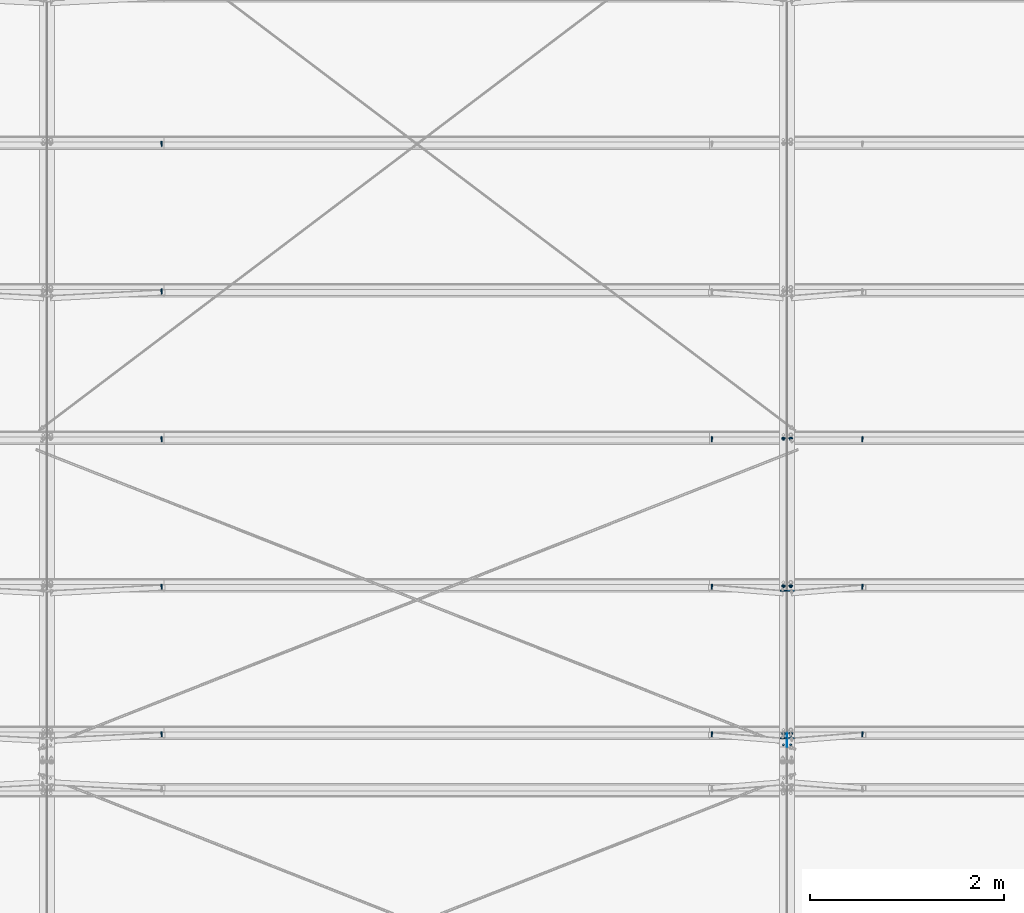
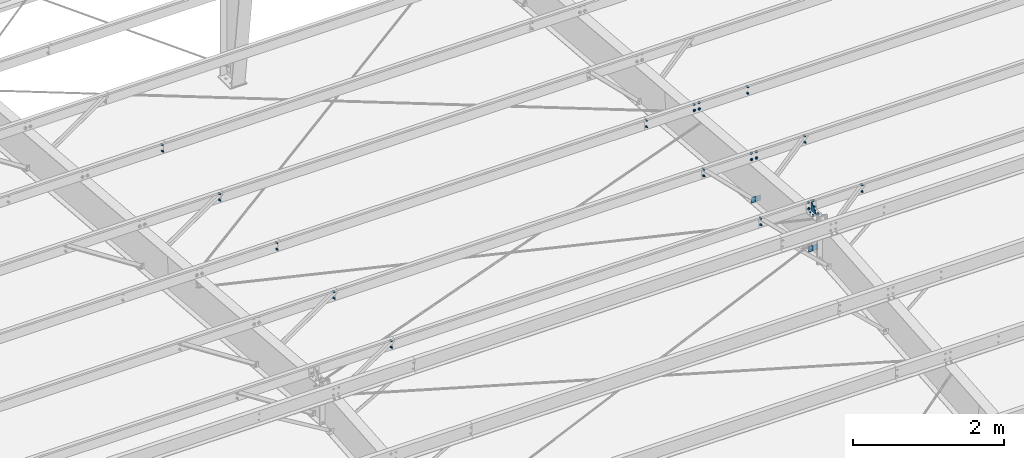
# One storey, part 82 of 185: 18 mechanical fasteners, 5 discrete accessories, 13 elements without a shape of their own.
"""IFC2X3 building model written with IfcOpenShell, lengths in millimetres."""

from ifc_helpers import new_model, si_unit, frame, origin_with_axes, origin_2d_with_axis, place, context, subcontext, project, spatial, polyline, rectangle, circle, outline, extrude, source, transform, mapped, material, type_object, element, aggregate, save


model = new_model("IFC2X3")

# Units and contexts
model_context = context("Model", 3, precision=1e-05, world=origin_with_axes())
body_context = subcontext(model_context, "Body", "Model", "MODEL_VIEW")
ifc_project = project(units=[si_unit("LENGTHUNIT", "METRE", prefix="MILLI"), si_unit("AREAUNIT", "SQUARE_METRE"), si_unit("VOLUMEUNIT", "CUBIC_METRE"), si_unit("MASSUNIT", "GRAM", prefix="KILO"), si_unit("TIMEUNIT", "SECOND"), si_unit("PLANEANGLEUNIT", "RADIAN"), si_unit("SOLIDANGLEUNIT", "STERADIAN"), si_unit("THERMODYNAMICTEMPERATUREUNIT", "DEGREE_CELSIUS"), si_unit("LUMINOUSINTENSITYUNIT", "LUMEN")], contexts=[model_context])

# Site, building, storey
site_placement = place(None, origin_with_axes())
site = spatial("IfcSite", under=ifc_project, at=site_placement, Name="Undefined", CompositionType="ELEMENT")
building_placement = place(site_placement, origin_with_axes())
building = spatial("IfcBuilding", under=site, at=building_placement, Name="Undefined", CompositionType="ELEMENT")
storey_placement = place(building_placement, origin_with_axes())
storey = spatial("IfcBuildingStorey", under=building, at=storey_placement, Name="Undefined", CompositionType="ELEMENT", Elevation=0.0)

# Assembly, mechanical fastener
assembly_1_placement = place(storey_placement, origin_with_axes())
assembly_1 = element("IfcElementAssembly", 1, at=assembly_1_placement, inside=storey, Name="Steel Assembly", AssemblyPlace="NOTDEFINED", PredefinedType="RIGID_FRAME")
ifc_material_1 = material(Name="Undefined")
discrete_accessory_type_1 = type_object("IfcDiscreteAccessoryType", Name="Bolt assembly")
shared_shape_1 = source(origin_with_axes(), body_context, "Body", "SweptSolid", [
    extrude(circle(Radius=7.14374971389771, at=origin_2d_with_axis()), frame((0.0, -1.59000001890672, 0.0), z_axis=(0.0, 1.0, 0.0), x_axis=(1.0, 0.0, 0.0)), (0.0, 0.0, 1.0), 3.3),
    extrude(circle(Radius=13.4937496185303, at=origin_2d_with_axis()), frame((0.0, -5.5587500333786, 0.0), z_axis=(0.0, 1.0, 0.0), x_axis=(1.0, 0.0, 0.0)), (0.0, 0.0, 1.0), 4.0),
    extrude(circle(Radius=22.2250003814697, at=origin_2d_with_axis()), frame((0.0, 1.5900000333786, 0.0), z_axis=(0.0, 1.0, 0.0), x_axis=(1.0, 0.0, 0.0)), (0.0, 0.0, 1.0), 7.9),
    extrude(outline(polyline([(12.8316099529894, 0.0), (6.4158049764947, 11.1125001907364), (-6.4158049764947, 11.1125001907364), (-12.8316099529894, 0.0), (-6.4158049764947, -11.1125001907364), (6.4158049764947, -11.1125001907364), (12.8316099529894, 0.0)])), frame((0.0, 9.5275000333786, 0.0), z_axis=(0.0, 1.0, 0.0), x_axis=(1.0, 0.0, 0.0)), (0.0, 0.0, 1.0), 12.3),
])
mechanical_fastener_1_placement = place(assembly_1_placement, frame((14820.9, 19338.9994834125, 7100.44062815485), z_axis=(-1.0, 0.0, 0.0), x_axis=(0.0, -0.0830454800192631, -0.996545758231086)))
mechanical_fastener_1 = element("IfcMechanicalFastener", 2, at=mechanical_fastener_1_placement, type_object=discrete_accessory_type_1, material=ifc_material_1, Name="Bolt assembly", NominalDiameter=12.6999998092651, NominalLength=38.0999984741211, context=body_context, shape_type="MappedRepresentation", body=[
    mapped(shared_shape_1, transform((0.0, 0.0, 0.0))),
    mapped(shared_shape_1, transform((101.599998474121, 0.0, 0.0))),
])
aggregate(assembly_1, [mechanical_fastener_1])

assembly_2_placement = place(storey_placement, origin_with_axes())
assembly_2 = element("IfcElementAssembly", 3, at=assembly_2_placement, inside=storey, Name="Steel Assembly", AssemblyPlace="NOTDEFINED", PredefinedType="RIGID_FRAME")
mechanical_fastener_2_placement = place(assembly_2_placement, frame((14897.1, 19338.9994834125, 7100.44062815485), z_axis=(-1.0, 0.0, 0.0), x_axis=(0.0, -0.0830454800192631, -0.996545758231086)))
mechanical_fastener_2 = element("IfcMechanicalFastener", 4, at=mechanical_fastener_2_placement, type_object=discrete_accessory_type_1, material=ifc_material_1, Name="Bolt assembly", NominalDiameter=12.6999998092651, NominalLength=38.0999984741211, context=body_context, shape_type="MappedRepresentation", body=[
    mapped(shared_shape_1, transform((0.0, 0.0, 0.0))),
    mapped(shared_shape_1, transform((101.599998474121, 0.0, 0.0))),
])

assembly_3_placement = place(storey_placement, origin_with_axes())
assembly_3 = element("IfcElementAssembly", 5, at=assembly_3_placement, inside=storey, Name="Steel Assembly", AssemblyPlace="NOTDEFINED", PredefinedType="RIGID_FRAME")
mechanical_fastener_3_placement = place(assembly_3_placement, frame((14820.9, 17820.2637478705, 7227.00193971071), z_axis=(-1.0, 0.0, 0.0), x_axis=(0.0, -0.0830454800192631, -0.996545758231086)))
mechanical_fastener_3 = element("IfcMechanicalFastener", 6, at=mechanical_fastener_3_placement, type_object=discrete_accessory_type_1, material=ifc_material_1, Name="Bolt assembly", NominalDiameter=12.6999998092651, NominalLength=38.0999984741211, context=body_context, shape_type="MappedRepresentation", body=[
    mapped(shared_shape_1, transform((0.0, 0.0, 0.0))),
    mapped(shared_shape_1, transform((101.599998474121, 0.0, 0.0))),
])
aggregate(assembly_3, [mechanical_fastener_3])

assembly_4_placement = place(storey_placement, origin_with_axes())
assembly_4 = element("IfcElementAssembly", 7, at=assembly_4_placement, inside=storey, Name="Steel Assembly", AssemblyPlace="NOTDEFINED", PredefinedType="RIGID_FRAME")
mechanical_fastener_4_placement = place(assembly_4_placement, frame((14897.1, 17820.2637478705, 7227.00193971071), z_axis=(-1.0, 0.0, 0.0), x_axis=(0.0, -0.0830454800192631, -0.996545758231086)))
mechanical_fastener_4 = element("IfcMechanicalFastener", 8, at=mechanical_fastener_4_placement, type_object=discrete_accessory_type_1, material=ifc_material_1, Name="Bolt assembly", NominalDiameter=12.6999998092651, NominalLength=38.0999984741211, context=body_context, shape_type="MappedRepresentation", body=[
    mapped(shared_shape_1, transform((0.0, 0.0, 0.0))),
    mapped(shared_shape_1, transform((101.599998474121, 0.0, 0.0))),
])

assembly_5_placement = place(storey_placement, origin_with_axes())
assembly_5 = element("IfcElementAssembly", 9, at=assembly_5_placement, inside=storey, Name="Steel Assembly", AssemblyPlace="NOTDEFINED", PredefinedType="RIGID_FRAME")
mechanical_fastener_5_placement = place(assembly_5_placement, frame((14820.9, 16301.5280123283, 7353.56325126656), z_axis=(-1.0, 0.0, 0.0), x_axis=(0.0, -0.0830454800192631, -0.996545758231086)))
mechanical_fastener_5 = element("IfcMechanicalFastener", 10, at=mechanical_fastener_5_placement, type_object=discrete_accessory_type_1, material=ifc_material_1, Name="Bolt assembly", NominalDiameter=12.6999998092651, NominalLength=38.0999984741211, context=body_context, shape_type="MappedRepresentation", body=[
    mapped(shared_shape_1, transform((0.0, 0.0, 0.0))),
    mapped(shared_shape_1, transform((101.599998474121, 0.0, 0.0))),
])
aggregate(assembly_5, [mechanical_fastener_5])

assembly_6_placement = place(storey_placement, origin_with_axes())
assembly_6 = element("IfcElementAssembly", 11, at=assembly_6_placement, inside=storey, Name="Steel Assembly", AssemblyPlace="NOTDEFINED", PredefinedType="RIGID_FRAME")
mechanical_fastener_6_placement = place(assembly_6_placement, frame((14897.1, 16301.5280123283, 7353.56325126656), z_axis=(-1.0, 0.0, 0.0), x_axis=(0.0, -0.0830454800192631, -0.996545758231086)))
mechanical_fastener_6 = element("IfcMechanicalFastener", 12, at=mechanical_fastener_6_placement, type_object=discrete_accessory_type_1, material=ifc_material_1, Name="Bolt assembly", NominalDiameter=12.6999998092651, NominalLength=38.0999984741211, context=body_context, shape_type="MappedRepresentation", body=[
    mapped(shared_shape_1, transform((0.0, 0.0, 0.0))),
    mapped(shared_shape_1, transform((101.599998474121, 0.0, 0.0))),
])

# Assembly, discrete accessory
assembly_7_placement = place(storey_placement, origin_with_axes())
assembly_7 = element("IfcElementAssembly", 13, at=assembly_7_placement, inside=storey, Name="Steel Assembly", AssemblyPlace="NOTDEFINED", PredefinedType="RIGID_FRAME")
ifc_material_2 = material(Name="STEEL/55")
discrete_accessory_type_2 = type_object("IfcDiscreteAccessoryType", Name="PLATE")
discrete_accessory_1_placement = place(assembly_7_placement, frame((14859.0, 16150.1817775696, 7219.6191968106), z_axis=(1.0, 0.0, 0.0), x_axis=(0.0, 0.996545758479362, -0.0830454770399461)))
discrete_accessory_1 = element("IfcDiscreteAccessory", 14, at=discrete_accessory_1_placement, type_object=discrete_accessory_type_2, material=ifc_material_2, Name="PLATE", ObjectType="FL1/4\"X5 1/4\"", context=body_context, shape_type="SweptSolid", body=[
    extrude(outline(polyline([(0.0, 0.0), (133.350006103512, 3.70164343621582e-10), (133.350006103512, 190.500000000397), (0.0, 0.0)])), frame((0.0, 0.0, -3.175), z_axis=(0.0, 0.0, 1.0), x_axis=(1.0, 0.0, 0.0)), (0.0, 0.0, 1.0), 6.4),
])

# Assembly, discrete accessories
assembly_8_placement = place(storey_placement, origin_with_axes())
assembly_8 = element("IfcElementAssembly", 15, at=assembly_8_placement, inside=storey, Name="Steel Assembly", AssemblyPlace="NOTDEFINED", PredefinedType="RIGID_FRAME")
discrete_accessory_type_3 = type_object("IfcDiscreteAccessoryType", Name="FLANGE BRACE FLIP")
discrete_accessory_2_placement = place(assembly_8_placement, frame((14857.29185, 16242.8487656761, 6628.84524779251), z_axis=(0.0, 0.0830454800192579, 0.996545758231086), x_axis=(-1.0, 0.0, 0.0)))
discrete_accessory_2 = element("IfcDiscreteAccessory", 16, at=discrete_accessory_2_placement, type_object=discrete_accessory_type_3, material=ifc_material_2, Name="FLANGE BRACE FLIP", ObjectType="PL1/8\"X2 3/4\"", context=body_context, shape_type="SweptSolid", body=[
    extrude(rectangle(XDim=3.416, YDim=85.725, at=origin_2d_with_axis()), frame((69.8499999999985, 0.0, 0.0), z_axis=(-1.0, 0.0, 0.0), x_axis=(0.0, -1.0, 0.0)), (0.0, 0.0, 1.0), 69.9),
])
discrete_accessory_3_placement = place(assembly_8_placement, frame((14860.70815, 16242.8487656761, 6628.84524779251), z_axis=(0.0, 0.0830454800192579, 0.996545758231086), x_axis=(1.0, 0.0, 0.0)))
discrete_accessory_3 = element("IfcDiscreteAccessory", 17, at=discrete_accessory_3_placement, type_object=discrete_accessory_type_3, material=ifc_material_2, Name="FLANGE BRACE FLIP", ObjectType="PL1/8\"X2 3/4\"", context=body_context, shape_type="SweptSolid", body=[
    extrude(rectangle(XDim=3.416, YDim=85.725, at=origin_2d_with_axis()), frame((69.8499999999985, 0.0, 0.0), z_axis=(-1.0, 0.0, 0.0), x_axis=(0.0, -1.0, 0.0)), (0.0, 0.0, 1.0), 69.9),
])
discrete_accessory_4_placement = place(assembly_8_placement, frame((14857.29185, 17761.5845012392, 6502.28393648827), z_axis=(0.0, 0.0830454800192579, 0.996545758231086), x_axis=(-1.0, 0.0, 0.0)))
discrete_accessory_4 = element("IfcDiscreteAccessory", 18, at=discrete_accessory_4_placement, type_object=discrete_accessory_type_3, material=ifc_material_2, Name="FLANGE BRACE FLIP", ObjectType="PL1/8\"X2 3/4\"", context=body_context, shape_type="SweptSolid", body=[
    extrude(rectangle(XDim=3.416, YDim=85.725, at=origin_2d_with_axis()), frame((69.8499999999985, 0.0, 0.0), z_axis=(-1.0, 0.0, 0.0), x_axis=(0.0, -1.0, 0.0)), (0.0, 0.0, 1.0), 69.9),
])
discrete_accessory_5_placement = place(assembly_8_placement, frame((14860.70815, 17761.5845012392, 6502.28393648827), z_axis=(0.0, 0.0830454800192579, 0.996545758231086), x_axis=(1.0, 0.0, 0.0)))
discrete_accessory_5 = element("IfcDiscreteAccessory", 19, at=discrete_accessory_5_placement, type_object=discrete_accessory_type_3, material=ifc_material_2, Name="FLANGE BRACE FLIP", ObjectType="PL1/8\"X2 3/4\"", context=body_context, shape_type="SweptSolid", body=[
    extrude(rectangle(XDim=3.416, YDim=85.725, at=origin_2d_with_axis()), frame((69.8499999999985, 0.0, 0.0), z_axis=(-1.0, 0.0, 0.0), x_axis=(0.0, -1.0, 0.0)), (0.0, 0.0, 1.0), 69.9),
])
aggregate(assembly_8, [discrete_accessory_2, discrete_accessory_3, discrete_accessory_4, discrete_accessory_5])

# Mechanical fastener
shared_shape_2 = source(origin_with_axes(), body_context, "Body", "SweptSolid", [
    extrude(circle(Radius=7.14374971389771, at=origin_2d_with_axis()), frame((0.0, -0.0238014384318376, 0.0), z_axis=(0.0, 1.0, 0.0), x_axis=(1.0, 0.0, 0.0)), (0.0, 0.0, 1.0), 8.0),
    extrude(circle(Radius=7.14374971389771, at=origin_2d_with_axis()), frame((0.0, -6.24999999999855, 0.0), z_axis=(0.0, 1.0, 0.0), x_axis=(1.0, 0.0, 0.0)), (0.0, 0.0, 1.0), 6.4),
    extrude(outline(polyline([(10.9985221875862, 0.0), (5.4992610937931, 9.52499961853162), (-5.4992610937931, 9.52499961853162), (-10.9985221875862, 0.0), (-5.4992610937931, -9.52499961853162), (5.4992610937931, -9.52499961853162), (10.9985221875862, 0.0)])), frame((0.0, -15.8750000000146, 0.0), z_axis=(0.0, 1.0, 0.0), x_axis=(1.0, 0.0, 0.0)), (0.0, 0.0, 1.0), 9.5),
    extrude(circle(Radius=6.34999990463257, at=origin_2d_with_axis()), frame((0.0, -6.34999953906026, 0.0), z_axis=(0.0, 1.0, 0.0), x_axis=(1.0, 0.0, 0.0)), (0.0, 0.0, 1.0), 38.1),
    extrude(outline(polyline([(12.8316099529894, 0.0), (6.4158049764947, 11.1125001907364), (-6.4158049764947, 11.1125001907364), (-12.8316099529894, 0.0), (-6.4158049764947, -11.1125001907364), (6.4158049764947, -11.1125001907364), (12.8316099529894, 0.0)])), frame((0.0, 7.95019856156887, 0.0), z_axis=(0.0, 1.0, 0.0), x_axis=(1.0, 0.0, 0.0)), (0.0, 0.0, 1.0), 12.3),
])
mechanical_fastener_7_placement = place(assembly_7_placement, frame((14859.0, 16250.9034878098, 7204.85371049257), z_axis=(1.0, 0.0, 0.0), x_axis=(0.0, -0.996545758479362, 0.0830454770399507)))
mechanical_fastener_7 = element("IfcMechanicalFastener", 20, at=mechanical_fastener_7_placement, type_object=discrete_accessory_type_1, material=ifc_material_1, Name="Bolt assembly", NominalDiameter=12.6999998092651, NominalLength=38.0999984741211, context=body_context, shape_type="MappedRepresentation", body=[
    mapped(shared_shape_2, transform((0.0, 0.0, -38.0999984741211))),
    mapped(shared_shape_2, transform((76.1999969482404, -1.38243194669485e-10, -38.0999984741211))),
    mapped(shared_shape_2, transform((0.0, 0.0, 38.0999984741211))),
    mapped(shared_shape_2, transform((76.1999969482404, -1.38243194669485e-10, 38.0999984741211))),
])

aggregate(assembly_7, [mechanical_fastener_7, discrete_accessory_1])

# Assembly, mechanical fastener
assembly_9_placement = place(storey_placement, origin_with_axes())
assembly_9 = element("IfcElementAssembly", 21, at=assembly_9_placement, inside=storey, Name="Steel Assembly", AssemblyPlace="NOTDEFINED", PredefinedType="RIGID_FRAME")
shared_shape_3 = source(origin_with_axes(), body_context, "Body", "SweptSolid", [
    extrude(circle(Radius=7.14374971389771, at=origin_2d_with_axis()), frame((0.0, -1.4900000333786, 0.0), z_axis=(0.0, 1.0, 0.0), x_axis=(1.0, 0.0, 0.0)), (0.0, 0.0, 1.0), 3.2),
    extrude(circle(Radius=7.14374971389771, at=origin_2d_with_axis()), frame((0.0, -1.4900000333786, 0.0), z_axis=(0.0, 1.0, 0.0), x_axis=(1.0, 0.0, 0.0)), (0.0, 0.0, 1.0), 3.2),
    extrude(outline(polyline([(10.9985221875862, 0.0), (5.4992610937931, 9.52499961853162), (-5.4992610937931, 9.52499961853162), (-10.9985221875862, 0.0), (-5.4992610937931, -9.52499961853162), (5.4992610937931, -9.52499961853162), (10.9985221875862, 0.0)])), frame((0.0, -11.1149996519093, 0.0), z_axis=(0.0, 1.0, 0.0), x_axis=(1.0, 0.0, 0.0)), (0.0, 0.0, 1.0), 9.5),
    extrude(circle(Radius=6.34999990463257, at=origin_2d_with_axis()), frame((0.0, -1.59000001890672, 0.0), z_axis=(0.0, 1.0, 0.0), x_axis=(1.0, 0.0, 0.0)), (0.0, 0.0, 1.0), 38.1),
    extrude(outline(polyline([(12.8316099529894, 0.0), (6.4158049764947, 11.1125001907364), (-6.4158049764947, 11.1125001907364), (-12.8316099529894, 0.0), (-6.4158049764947, -11.1125001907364), (6.4158049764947, -11.1125001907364), (12.8316099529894, 0.0)])), frame((0.0, 1.5900000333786, 0.0), z_axis=(0.0, 1.0, 0.0), x_axis=(1.0, 0.0, 0.0)), (0.0, 0.0, 1.0), 12.3),
])
mechanical_fastener_8_placement = place(assembly_9_placement, frame((8420.1, 16301.5280123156, 7353.56325121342), z_axis=(-1.0, 0.0, 0.0), x_axis=(0.0, -0.0830454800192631, -0.996545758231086)))
mechanical_fastener_8 = element("IfcMechanicalFastener", 22, at=mechanical_fastener_8_placement, type_object=discrete_accessory_type_1, material=ifc_material_1, Name="Bolt assembly", NominalDiameter=12.6999998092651, NominalLength=38.0999984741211, context=body_context, shape_type="MappedRepresentation", body=[
    mapped(shared_shape_3, transform((0.0, 0.0, 0.0))),
    mapped(shared_shape_3, transform((101.599998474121, 0.0, 0.0))),
])
aggregate(assembly_9, [mechanical_fastener_8])

assembly_10_placement = place(storey_placement, origin_with_axes())
assembly_10 = element("IfcElementAssembly", 23, at=assembly_10_placement, inside=storey, Name="Steel Assembly", AssemblyPlace="NOTDEFINED", PredefinedType="RIGID_FRAME")
mechanical_fastener_9_placement = place(assembly_10_placement, frame((8420.1, 17820.2637478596, 7227.0019396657), z_axis=(-1.0, 0.0, 0.0), x_axis=(0.0, -0.0830454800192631, -0.996545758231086)))
mechanical_fastener_9 = element("IfcMechanicalFastener", 24, at=mechanical_fastener_9_placement, type_object=discrete_accessory_type_1, material=ifc_material_1, Name="Bolt assembly", NominalDiameter=12.6999998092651, NominalLength=38.0999984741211, context=body_context, shape_type="MappedRepresentation", body=[
    mapped(shared_shape_3, transform((0.0, 0.0, 0.0))),
    mapped(shared_shape_3, transform((101.599998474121, 0.0, 0.0))),
])
aggregate(assembly_10, [mechanical_fastener_9])

assembly_11_placement = place(storey_placement, origin_with_axes())
assembly_11 = element("IfcElementAssembly", 25, at=assembly_11_placement, inside=storey, Name="Steel Assembly", AssemblyPlace="NOTDEFINED", PredefinedType="RIGID_FRAME")
mechanical_fastener_10_placement = place(assembly_11_placement, frame((8420.1, 19338.9994834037, 7100.44062811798), z_axis=(-1.0, 0.0, 0.0), x_axis=(0.0, -0.0830454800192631, -0.996545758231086)))
mechanical_fastener_10 = element("IfcMechanicalFastener", 26, at=mechanical_fastener_10_placement, type_object=discrete_accessory_type_1, material=ifc_material_1, Name="Bolt assembly", NominalDiameter=12.6999998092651, NominalLength=38.0999984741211, context=body_context, shape_type="MappedRepresentation", body=[
    mapped(shared_shape_3, transform((0.0, 0.0, 0.0))),
    mapped(shared_shape_3, transform((101.599998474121, 0.0, 0.0))),
])
aggregate(assembly_11, [mechanical_fastener_10])

assembly_12_placement = place(storey_placement, origin_with_axes())
assembly_12 = element("IfcElementAssembly", 27, at=assembly_12_placement, inside=storey, Name="Steel Assembly", AssemblyPlace="NOTDEFINED", PredefinedType="RIGID_FRAME")
mechanical_fastener_11_placement = place(assembly_12_placement, frame((8420.1, 20857.7352189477, 6973.87931657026), z_axis=(-1.0, 0.0, 0.0), x_axis=(0.0, -0.0830454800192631, -0.996545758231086)))
mechanical_fastener_11 = element("IfcMechanicalFastener", 28, at=mechanical_fastener_11_placement, type_object=discrete_accessory_type_1, material=ifc_material_1, Name="Bolt assembly", NominalDiameter=12.6999998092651, NominalLength=38.0999984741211, context=body_context, shape_type="MappedRepresentation", body=[
    mapped(shared_shape_3, transform((0.0, 0.0, 0.0))),
    mapped(shared_shape_3, transform((101.599998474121, 0.0, 0.0))),
])
aggregate(assembly_12, [mechanical_fastener_11])

assembly_13_placement = place(storey_placement, origin_with_axes())
assembly_13 = element("IfcElementAssembly", 29, at=assembly_13_placement, inside=storey, Name="Steel Assembly", AssemblyPlace="NOTDEFINED", PredefinedType="RIGID_FRAME")
mechanical_fastener_12_placement = place(assembly_13_placement, frame((8420.1, 22376.4709544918, 6847.31800502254), z_axis=(-1.0, 0.0, 0.0), x_axis=(0.0, -0.0830454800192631, -0.996545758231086)))
mechanical_fastener_12 = element("IfcMechanicalFastener", 30, at=mechanical_fastener_12_placement, type_object=discrete_accessory_type_1, material=ifc_material_1, Name="Bolt assembly", NominalDiameter=12.6999998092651, NominalLength=38.0999984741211, context=body_context, shape_type="MappedRepresentation", body=[
    mapped(shared_shape_3, transform((0.0, 0.0, 0.0))),
    mapped(shared_shape_3, transform((101.599998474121, 0.0, 0.0))),
])
aggregate(assembly_13, [mechanical_fastener_12])

# Mechanical fastener
mechanical_fastener_13_placement = place(assembly_2_placement, frame((14084.3, 19338.9994834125, 7100.44062815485), z_axis=(-1.0, 0.0, 0.0), x_axis=(0.0, -0.0830454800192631, -0.996545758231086)))
mechanical_fastener_13 = element("IfcMechanicalFastener", 31, at=mechanical_fastener_13_placement, type_object=discrete_accessory_type_1, material=ifc_material_1, Name="Bolt assembly", NominalDiameter=12.6999998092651, NominalLength=38.0999984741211, context=body_context, shape_type="MappedRepresentation", body=[
    mapped(shared_shape_3, transform((0.0, 0.0, 0.0))),
    mapped(shared_shape_3, transform((101.599998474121, 0.0, 0.0))),
])

mechanical_fastener_14_placement = place(assembly_2_placement, frame((15633.7, 19338.9994834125, 7100.44062815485), z_axis=(-1.0, 0.0, 0.0), x_axis=(0.0, -0.0830454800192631, -0.996545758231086)))
mechanical_fastener_14 = element("IfcMechanicalFastener", 32, at=mechanical_fastener_14_placement, type_object=discrete_accessory_type_1, material=ifc_material_1, Name="Bolt assembly", NominalDiameter=12.6999998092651, NominalLength=38.0999984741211, context=body_context, shape_type="MappedRepresentation", body=[
    mapped(shared_shape_3, transform((0.0, 0.0, 0.0))),
    mapped(shared_shape_3, transform((101.599998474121, 0.0, 0.0))),
])

aggregate(assembly_2, [mechanical_fastener_2, mechanical_fastener_13, mechanical_fastener_14])

mechanical_fastener_15_placement = place(assembly_4_placement, frame((14084.3, 17820.2637478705, 7227.00193971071), z_axis=(-1.0, 0.0, 0.0), x_axis=(0.0, -0.0830454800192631, -0.996545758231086)))
mechanical_fastener_15 = element("IfcMechanicalFastener", 33, at=mechanical_fastener_15_placement, type_object=discrete_accessory_type_1, material=ifc_material_1, Name="Bolt assembly", NominalDiameter=12.6999998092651, NominalLength=38.0999984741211, context=body_context, shape_type="MappedRepresentation", body=[
    mapped(shared_shape_3, transform((0.0, 0.0, 0.0))),
    mapped(shared_shape_3, transform((101.599998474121, 0.0, 0.0))),
])

mechanical_fastener_16_placement = place(assembly_4_placement, frame((15633.7, 17820.2637478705, 7227.00193971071), z_axis=(-1.0, 0.0, 0.0), x_axis=(0.0, -0.0830454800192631, -0.996545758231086)))
mechanical_fastener_16 = element("IfcMechanicalFastener", 34, at=mechanical_fastener_16_placement, type_object=discrete_accessory_type_1, material=ifc_material_1, Name="Bolt assembly", NominalDiameter=12.6999998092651, NominalLength=38.0999984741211, context=body_context, shape_type="MappedRepresentation", body=[
    mapped(shared_shape_3, transform((0.0, 0.0, 0.0))),
    mapped(shared_shape_3, transform((101.599998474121, 0.0, 0.0))),
])

aggregate(assembly_4, [mechanical_fastener_4, mechanical_fastener_15, mechanical_fastener_16])

mechanical_fastener_17_placement = place(assembly_6_placement, frame((14084.3, 16301.5280123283, 7353.56325126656), z_axis=(-1.0, 0.0, 0.0), x_axis=(0.0, -0.0830454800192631, -0.996545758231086)))
mechanical_fastener_17 = element("IfcMechanicalFastener", 35, at=mechanical_fastener_17_placement, type_object=discrete_accessory_type_1, material=ifc_material_1, Name="Bolt assembly", NominalDiameter=12.6999998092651, NominalLength=38.0999984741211, context=body_context, shape_type="MappedRepresentation", body=[
    mapped(shared_shape_3, transform((0.0, 0.0, 0.0))),
    mapped(shared_shape_3, transform((101.599998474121, 0.0, 0.0))),
])

mechanical_fastener_18_placement = place(assembly_6_placement, frame((15633.7, 16301.5280123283, 7353.56325126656), z_axis=(-1.0, 0.0, 0.0), x_axis=(0.0, -0.0830454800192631, -0.996545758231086)))
mechanical_fastener_18 = element("IfcMechanicalFastener", 36, at=mechanical_fastener_18_placement, type_object=discrete_accessory_type_1, material=ifc_material_1, Name="Bolt assembly", NominalDiameter=12.6999998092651, NominalLength=38.0999984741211, context=body_context, shape_type="MappedRepresentation", body=[
    mapped(shared_shape_3, transform((0.0, 0.0, 0.0))),
    mapped(shared_shape_3, transform((101.599998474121, 0.0, 0.0))),
])

aggregate(assembly_6, [mechanical_fastener_6, mechanical_fastener_17, mechanical_fastener_18])

save(model, "model.ifc")
